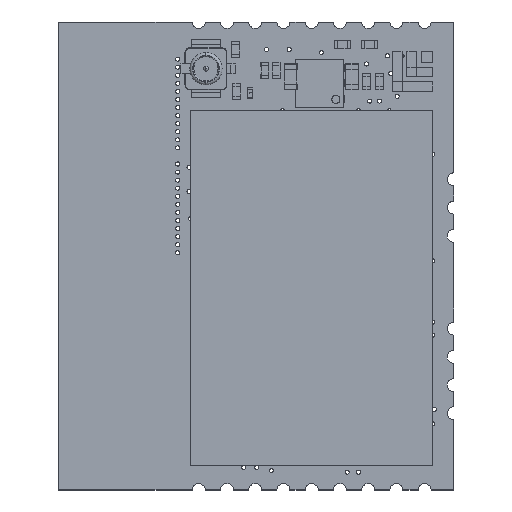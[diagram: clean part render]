
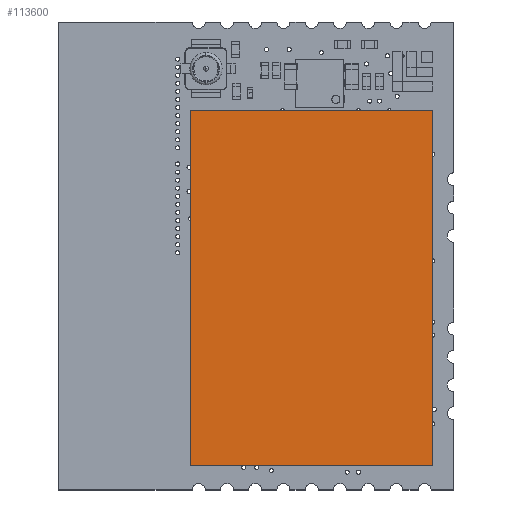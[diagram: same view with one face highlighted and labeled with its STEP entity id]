
A CAD part, top view. The second image highlights one B-rep face of the part: STEP entity #113600.
In plain terms, the highlighted planar face has unit normal (0, 0, 1).
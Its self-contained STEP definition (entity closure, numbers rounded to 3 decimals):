
#113286 = VERTEX_POINT('',#113287);
#113287 = CARTESIAN_POINT('',(0.2,1.5,2.3));
#113294 = PLANE('',#113295);
#113295 = AXIS2_PLACEMENT_3D('',#113296,#113297,#113298);
#113296 = CARTESIAN_POINT('',(0.2,1.5,1.1));
#113297 = DIRECTION('',(1.,0.,0.));
#113298 = DIRECTION('',(0.,0.,1.));
#113306 = PLANE('',#113307);
#113307 = AXIS2_PLACEMENT_3D('',#113308,#113309,#113310);
#113308 = CARTESIAN_POINT('',(0.2,1.5,1.1));
#113309 = DIRECTION('',(0.,1.,0.));
#113310 = DIRECTION('',(0.,0.,1.));
#113347 = VERTEX_POINT('',#113348);
#113348 = CARTESIAN_POINT('',(0.2,23.5,2.3));
#113362 = PLANE('',#113363);
#113363 = AXIS2_PLACEMENT_3D('',#113364,#113365,#113366);
#113364 = CARTESIAN_POINT('',(0.2,23.5,1.1));
#113365 = DIRECTION('',(0.,1.,0.));
#113366 = DIRECTION('',(0.,0.,1.));
#113374 = EDGE_CURVE('',#113286,#113347,#113375,.T.);
#113375 = SURFACE_CURVE('',#113376,(#113380,#113387),.PCURVE_S1.);
#113376 = LINE('',#113377,#113378);
#113377 = CARTESIAN_POINT('',(0.2,1.5,2.3));
#113378 = VECTOR('',#113379,1.);
#113379 = DIRECTION('',(0.,1.,0.));
#113380 = PCURVE('',#113294,#113381);
#113381 = DEFINITIONAL_REPRESENTATION('',(#113382),#113386);
#113382 = LINE('',#113383,#113384);
#113383 = CARTESIAN_POINT('',(1.2,0.));
#113384 = VECTOR('',#113385,1.);
#113385 = DIRECTION('',(0.,-1.));
#113386 = ( GEOMETRIC_REPRESENTATION_CONTEXT(2) 
PARAMETRIC_REPRESENTATION_CONTEXT() REPRESENTATION_CONTEXT('2D SPACE',''
  ) );
#113387 = PCURVE('',#113388,#113393);
#113388 = PLANE('',#113389);
#113389 = AXIS2_PLACEMENT_3D('',#113390,#113391,#113392);
#113390 = CARTESIAN_POINT('',(0.2,1.5,2.3));
#113391 = DIRECTION('',(0.,0.,1.));
#113392 = DIRECTION('',(1.,0.,0.));
#113393 = DEFINITIONAL_REPRESENTATION('',(#113394),#113398);
#113394 = LINE('',#113395,#113396);
#113395 = CARTESIAN_POINT('',(0.,0.));
#113396 = VECTOR('',#113397,1.);
#113397 = DIRECTION('',(0.,1.));
#113398 = ( GEOMETRIC_REPRESENTATION_CONTEXT(2) 
PARAMETRIC_REPRESENTATION_CONTEXT() REPRESENTATION_CONTEXT('2D SPACE',''
  ) );
#113406 = VERTEX_POINT('',#113407);
#113407 = CARTESIAN_POINT('',(15.2,1.5,2.3));
#113414 = PLANE('',#113415);
#113415 = AXIS2_PLACEMENT_3D('',#113416,#113417,#113418);
#113416 = CARTESIAN_POINT('',(15.2,1.5,1.1));
#113417 = DIRECTION('',(1.,0.,0.));
#113418 = DIRECTION('',(0.,0.,1.));
#113457 = VERTEX_POINT('',#113458);
#113458 = CARTESIAN_POINT('',(15.2,23.5,2.3));
#113479 = EDGE_CURVE('',#113406,#113457,#113480,.T.);
#113480 = SURFACE_CURVE('',#113481,(#113485,#113492),.PCURVE_S1.);
#113481 = LINE('',#113482,#113483);
#113482 = CARTESIAN_POINT('',(15.2,1.5,2.3));
#113483 = VECTOR('',#113484,1.);
#113484 = DIRECTION('',(0.,1.,0.));
#113485 = PCURVE('',#113414,#113486);
#113486 = DEFINITIONAL_REPRESENTATION('',(#113487),#113491);
#113487 = LINE('',#113488,#113489);
#113488 = CARTESIAN_POINT('',(1.2,0.));
#113489 = VECTOR('',#113490,1.);
#113490 = DIRECTION('',(0.,-1.));
#113491 = ( GEOMETRIC_REPRESENTATION_CONTEXT(2) 
PARAMETRIC_REPRESENTATION_CONTEXT() REPRESENTATION_CONTEXT('2D SPACE',''
  ) );
#113492 = PCURVE('',#113388,#113493);
#113493 = DEFINITIONAL_REPRESENTATION('',(#113494),#113498);
#113494 = LINE('',#113495,#113496);
#113495 = CARTESIAN_POINT('',(15.,0.));
#113496 = VECTOR('',#113497,1.);
#113497 = DIRECTION('',(0.,1.));
#113498 = ( GEOMETRIC_REPRESENTATION_CONTEXT(2) 
PARAMETRIC_REPRESENTATION_CONTEXT() REPRESENTATION_CONTEXT('2D SPACE',''
  ) );
#113525 = EDGE_CURVE('',#113286,#113406,#113526,.T.);
#113526 = SURFACE_CURVE('',#113527,(#113531,#113538),.PCURVE_S1.);
#113527 = LINE('',#113528,#113529);
#113528 = CARTESIAN_POINT('',(0.2,1.5,2.3));
#113529 = VECTOR('',#113530,1.);
#113530 = DIRECTION('',(1.,0.,0.));
#113531 = PCURVE('',#113306,#113532);
#113532 = DEFINITIONAL_REPRESENTATION('',(#113533),#113537);
#113533 = LINE('',#113534,#113535);
#113534 = CARTESIAN_POINT('',(1.2,0.));
#113535 = VECTOR('',#113536,1.);
#113536 = DIRECTION('',(0.,1.));
#113537 = ( GEOMETRIC_REPRESENTATION_CONTEXT(2) 
PARAMETRIC_REPRESENTATION_CONTEXT() REPRESENTATION_CONTEXT('2D SPACE',''
  ) );
#113538 = PCURVE('',#113388,#113539);
#113539 = DEFINITIONAL_REPRESENTATION('',(#113540),#113544);
#113540 = LINE('',#113541,#113542);
#113541 = CARTESIAN_POINT('',(0.,0.));
#113542 = VECTOR('',#113543,1.);
#113543 = DIRECTION('',(1.,0.));
#113544 = ( GEOMETRIC_REPRESENTATION_CONTEXT(2) 
PARAMETRIC_REPRESENTATION_CONTEXT() REPRESENTATION_CONTEXT('2D SPACE',''
  ) );
#113572 = EDGE_CURVE('',#113347,#113457,#113573,.T.);
#113573 = SURFACE_CURVE('',#113574,(#113578,#113585),.PCURVE_S1.);
#113574 = LINE('',#113575,#113576);
#113575 = CARTESIAN_POINT('',(0.2,23.5,2.3));
#113576 = VECTOR('',#113577,1.);
#113577 = DIRECTION('',(1.,0.,0.));
#113578 = PCURVE('',#113362,#113579);
#113579 = DEFINITIONAL_REPRESENTATION('',(#113580),#113584);
#113580 = LINE('',#113581,#113582);
#113581 = CARTESIAN_POINT('',(1.2,0.));
#113582 = VECTOR('',#113583,1.);
#113583 = DIRECTION('',(0.,1.));
#113584 = ( GEOMETRIC_REPRESENTATION_CONTEXT(2) 
PARAMETRIC_REPRESENTATION_CONTEXT() REPRESENTATION_CONTEXT('2D SPACE',''
  ) );
#113585 = PCURVE('',#113388,#113586);
#113586 = DEFINITIONAL_REPRESENTATION('',(#113587),#113591);
#113587 = LINE('',#113588,#113589);
#113588 = CARTESIAN_POINT('',(0.,22.));
#113589 = VECTOR('',#113590,1.);
#113590 = DIRECTION('',(1.,0.));
#113591 = ( GEOMETRIC_REPRESENTATION_CONTEXT(2) 
PARAMETRIC_REPRESENTATION_CONTEXT() REPRESENTATION_CONTEXT('2D SPACE',''
  ) );
#113600 = ADVANCED_FACE('',(#113601),#113388,.T.);
#113601 = FACE_BOUND('',#113602,.T.);
#113602 = EDGE_LOOP('',(#113603,#113604,#113605,#113606));
#113603 = ORIENTED_EDGE('',*,*,#113374,.F.);
#113604 = ORIENTED_EDGE('',*,*,#113525,.T.);
#113605 = ORIENTED_EDGE('',*,*,#113479,.T.);
#113606 = ORIENTED_EDGE('',*,*,#113572,.F.);
